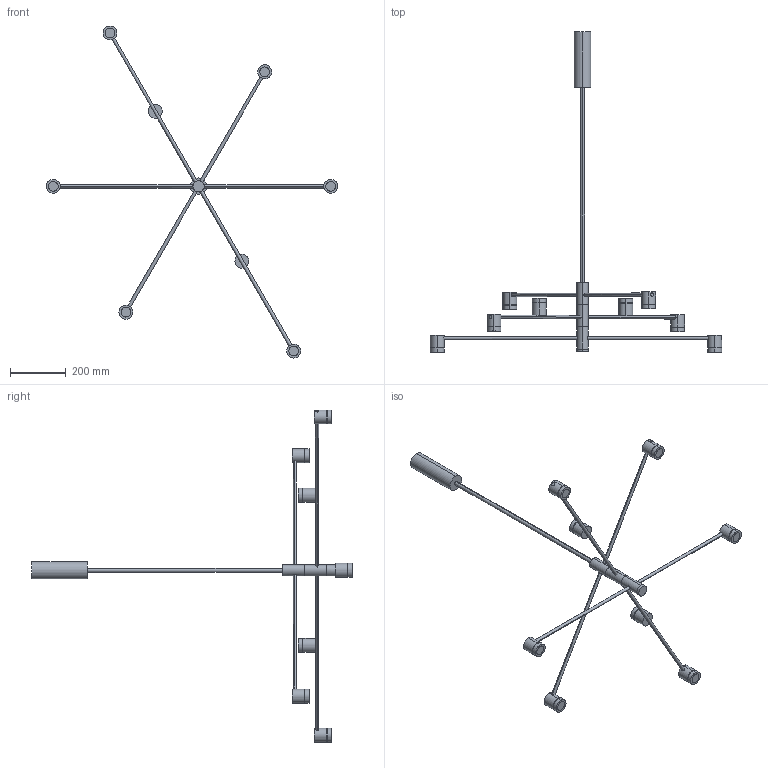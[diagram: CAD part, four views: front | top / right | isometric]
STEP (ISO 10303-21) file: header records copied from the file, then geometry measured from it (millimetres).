
FILE_DESCRIPTION (( 'STEP AP203' ), '1' );
FILE_NAME ('TEA_C1337_8.STEP', '2026-02-06T08:26:14', ( '' ), ( '' ), 'SwSTEP 2.0', 'SolidWorks 2023', '' );
FILE_SCHEMA (( 'CONFIG_CONTROL_DESIGN' ));
Length unit declared in the file: millimetre
Products named in the file (1): TEA_C1337_8
Bounding box: 1047 x 1151.25 x 1192.77 mm (x, y, z)
Volume: 2328904.2 mm3; surface area: 424042.6 mm2
Topology: 38 solids, 38 shells, 167 faces, 258 edges, 172 vertices
Faces by surface type: cylinder 86, plane 81
Entity records: 4139 total; most frequent: CARTESIAN_POINT 934, DIRECTION 750, ORIENTED_EDGE 516, AXIS2_PLACEMENT_3D 332, EDGE_CURVE 258, VERTEX_POINT 172, EDGE_LOOP 172, ADVANCED_FACE 167
